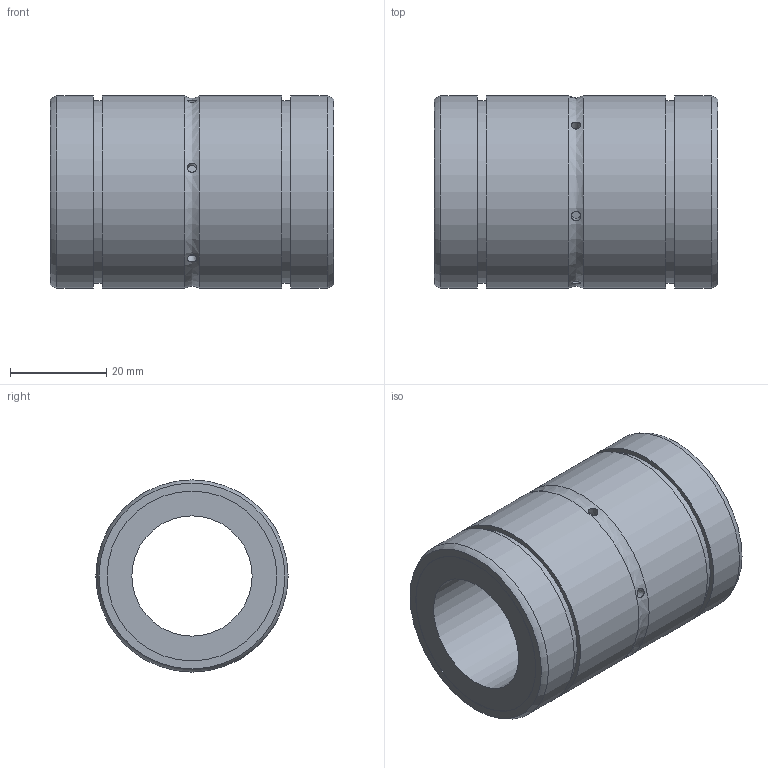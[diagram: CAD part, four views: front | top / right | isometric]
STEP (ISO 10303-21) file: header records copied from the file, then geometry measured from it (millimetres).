
FILE_DESCRIPTION((''),'2;1');
FILE_NAME('D:\製品 (図面)\カタログ用3D\リニアベアリング関連\STEP形式\L-OH\L25-OH.stp','2010-06-04T09:30:52',('Tsuchiya'),(''),'Autodesk Inventor 10','Autodesk Inventor 10','');
FILE_SCHEMA(('AUTOMOTIVE_DESIGN { 1 0 10303 214 1 1 1 1 }'));
Length unit declared in the file: millimetre
Products named in the file (1): L25-OH
Bounding box: 59 x 40 x 40 mm (x, y, z)
Volume: 44366.5 mm3; surface area: 14015.4 mm2
Topology: 1 solids, 1 shells, 32 faces, 56 edges, 38 vertices
Faces by surface type: cylinder 15, plane 8, bspline 7, torus 2
Full cylindrical faces by diameter (mm): 25 x1, 35.3 x2, 38 x2, 40 x4
Entity records: 1339 total; most frequent: CARTESIAN_POINT 829, DIRECTION 92, ORIENTED_EDGE 64, EDGE_LOOP 64, AXIS2_PLACEMENT_3D 46, VERTEX_POINT 32, EDGE_CURVE 32, FACE_OUTER_BOUND 32
